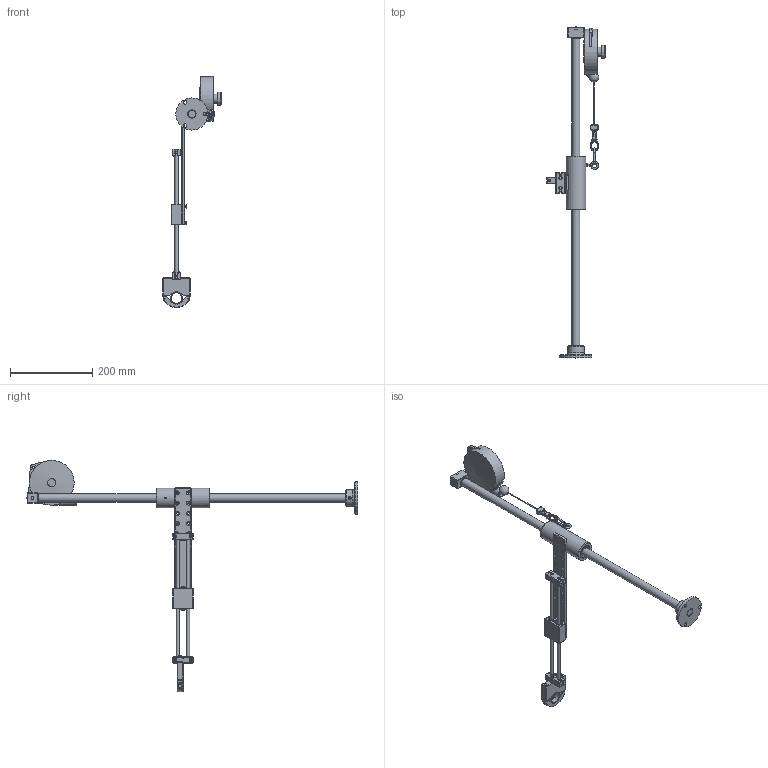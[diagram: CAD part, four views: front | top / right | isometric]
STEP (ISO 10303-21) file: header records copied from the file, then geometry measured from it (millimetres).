
FILE_DESCRIPTION(/* description */ ('Unknown'),/* implementation_level */ '2;1');
FILE_NAME(/* name */ '4-1201000_bras BA 12',/* time_stamp */ '2016-04-06T11:48:15+02:00',/* author */ ('Unknown'),/* organization */ ('Unknown'),/* preprocessor_version */ 'ST-DEVELOPER v16',/* originating_system */ 'DEX',/* authorisation */ $);
FILE_SCHEMA (('AUTOMOTIVE_DESIGN {1 0 10303 214 3 1 1}'));
Length unit declared in the file: millimetre
Products named in the file (38): 4-1201000_bras BA 12_mi-course; Asm Coulisses; CHC M4x16; Axe ﾘ8 ; Butoir; Bride arrière; Asm bras BA12; Douille KB8; Boîte à douille; FHC M5x16; Plaque support BA12; CHC M5x16; Vis H M5x10 à collerette; Piton M5; Douille KB20; Fourreau; Cable BA12; Equilibreur; Vis M4x8; Entretoise; Equilibreur 2 - 3 Kg; CHC M8x35; Bague; Support equilibreur BA05; Asm Pince BA12; CHC M5x45; Collier; Placement BA12; Pince  ; Mat; Vis M8x10 à bout plat; Mat BA12; Pied; Asm bride avant; CHC M4x30; Vis HC M3x6; Aimant NE86; Bride avant
Assembly tree (52 placements, depth 3):
  4-1201000_bras BA 12_mi-course
    Asm Coulisses
      CHC M4x16  x2
      Axe ﾘ8   x2
      Butoir
      Bride arrière
    Asm bras BA12
      Douille KB8  x4
      Boîte à douille
      FHC M5x16  x4
      Plaque support BA12
      CHC M5x16  x2
      Vis H M5x10 à collerette  x2
      Piton M5
      Douille KB20  x2
      Fourreau
    Cable BA12
    Equilibreur
      Vis M4x8
      Entretoise
      Equilibreur 2 - 3 Kg
      CHC M8x35
      Bague
      Support equilibreur BA05
    Asm Pince BA12
      CHC M5x45  x2
      Collier
      Placement BA12
      Pince  
    Mat
      Vis M8x10 à bout plat
      Mat BA12
      Pied
    Asm bride avant
      CHC M4x16  x2
      CHC M4x30  x2
      Vis HC M3x6
      Aimant NE86
      Bride avant
Bounding box: 142.5 x 808.2 x 562.82 mm (x, y, z)
Volume: 1106161.9 mm3; surface area: 277966 mm2
Topology: 46 solids, 46 shells, 864 faces, 1975 edges, 1236 vertices
Faces by surface type: plane 510, cylinder 210, cone 105, torus 28, sphere 8, bspline 3
Full cylindrical faces by diameter (mm): 2 x1, 2.4 x1, 2.5 x1, 3 x1, 3.3 x7, 3.8 x6, 4 x7, 4.2 x20, 4.5 x1, 4.8 x4, 5 x29, 5.5 x2, 6 x2, 6.5 x1, 6.8 x3, 7 x6, 7.5 x1, 7.8 x1, 8 x14, 8.1 x1, 8.5 x7, 9 x3, 11.7 x2, 13 x2, 16 x6, 18 x1, 19 x1, 20 x5, 21 x1, 22 x1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
Entity records: 22289 total; most frequent: CARTESIAN_POINT 7004, DIRECTION 3142, ORIENTED_EDGE 2554, EDGE_CURVE 1277, AXIS2_PLACEMENT_3D 1186, FACE_BOUND 1026, EDGE_LOOP 1016, VERTEX_POINT 887
